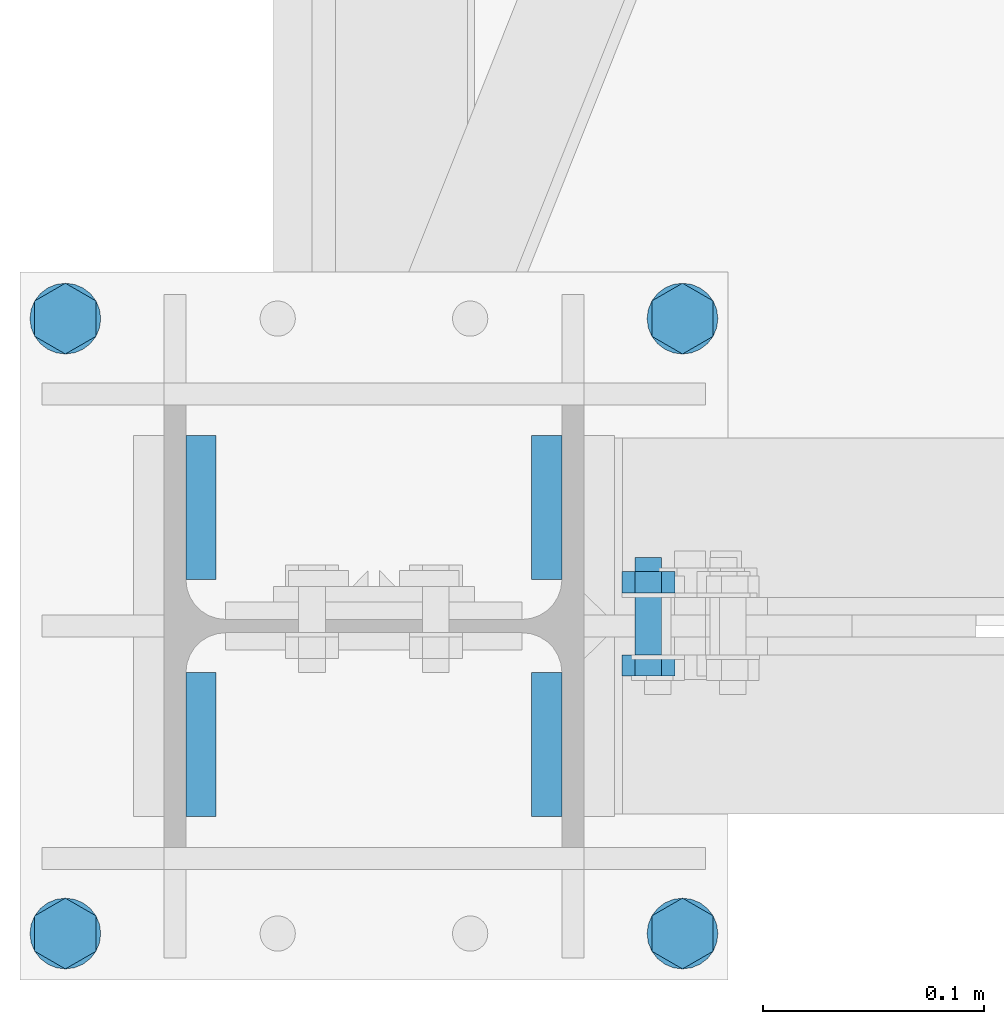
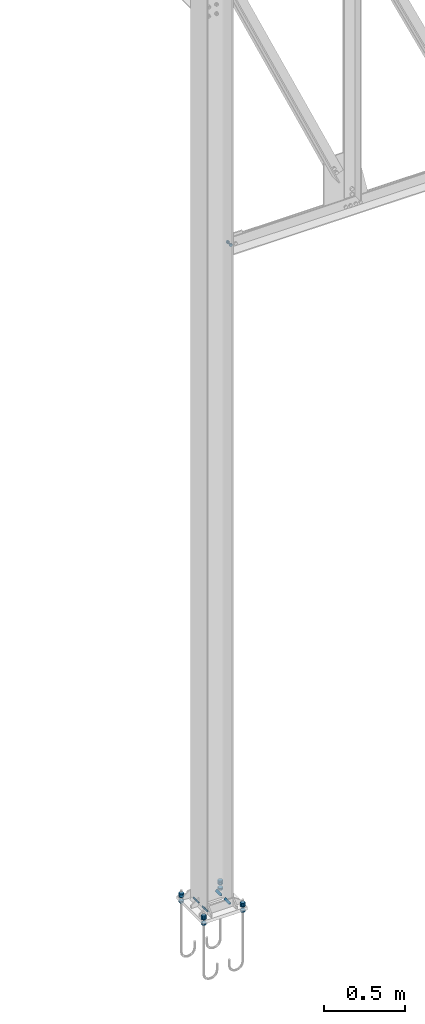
# One storey, part 57 of 251: 23 mechanical fasteners, 8 fasteners.
"""IFC4 building model written with IfcOpenShell, lengths in metres."""

import ifcopenshell
import ifcopenshell.guid

model = None  # the IFC model being written
_history = None  # IfcOwnerHistory: only IFC2X3 demands one
_inside = {}  # id of a spatial element -> (the spatial element, [elements in it])
_under = {}  # id of a project, library or spatial element -> (it, [spatial elements below it])
_declared = {}  # id of a project -> (the project, [libraries it declares])
_typed = {}  # id of a type object -> (the type object, [elements of that type])
_made_of = {}  # id of a material, layer set ... -> (it, [elements and type objects made of it])


def new_model(schema):
    """Start an empty IFC model of exactly this schema.

    Asked for "IFC4X3", IfcOpenShell would pick the latest addendum, in which some entities
    have other attributes; the version numbers below select the first issue.
    IFC2X3 requires an IfcOwnerHistory on every rooted entity: one is made here for all.
    """
    global model, _history
    if schema == "IFC4X3":
        model = ifcopenshell.file(schema_version=(4, 3, 0, 0))
    else:
        model = ifcopenshell.file(schema=schema)
    _inside.clear()
    _under.clear()
    _declared.clear()
    _typed.clear()
    _made_of.clear()
    _history = None
    if model.schema == "IFC2X3":
        org = make("IfcOrganization", Name="unknown")
        user = make(
            "IfcPersonAndOrganization",
            ThePerson=make("IfcPerson", FamilyName="unknown"),
            TheOrganization=org,
        )
        app = make(
            "IfcApplication",
            ApplicationDeveloper=org,
            Version="unknown",
            ApplicationFullName="unknown",
            ApplicationIdentifier="unknown",
        )
        _history = make(
            "IfcOwnerHistory",
            OwningUser=user,
            OwningApplication=app,
            ChangeAction="ADDED",
            CreationDate=0,
        )
    return model


def make(cls, **values):
    """One entity of the class cls with the attributes given. An attribute that is None is left unset."""
    return model.create_entity(
        cls, **{name: value for name, value in values.items() if value is not None}
    )


def rooted(cls, **values):
    """An entity with a GlobalId (a new one), such as an element, a storey or a relation."""
    return make(cls, GlobalId=ifcopenshell.guid.new(), OwnerHistory=_history, **values)


def si_unit(unit_type, name, prefix=None):
    """IfcSIUnit, for example si_unit("LENGTHUNIT", "METRE", prefix="MILLI")."""
    return make("IfcSIUnit", UnitType=unit_type, Prefix=prefix, Name=name)


def assignment(units):
    """IfcUnitAssignment: the units of a project."""
    return None if units is None else make("IfcUnitAssignment", Units=units)


def point(xyz):
    """IfcCartesianPoint."""
    return None if xyz is None else make("IfcCartesianPoint", Coordinates=xyz)


def direction(xyz):
    """IfcDirection."""
    return None if xyz is None else make("IfcDirection", DirectionRatios=xyz)


def frame(location, z_axis=None, x_axis=None):
    """IfcAxis2Placement3D, a coordinate frame: its origin and axes. An axis left out is left unset."""
    return make(
        "IfcAxis2Placement3D",
        Location=point(location),
        Axis=direction(z_axis),
        RefDirection=direction(x_axis),
    )


def origin_with_axes():
    """The frame at (0, 0, 0) with the z axis (0, 0, 1) and the x axis (1, 0, 0) written out."""
    return frame((0.0, 0.0, 0.0), z_axis=(0.0, 0.0, 1.0), x_axis=(1.0, 0.0, 0.0))


def place(relative_to, where):
    """IfcLocalPlacement: puts the frame where relative to a parent placement (None: the world)."""
    return make(
        "IfcLocalPlacement", PlacementRelTo=relative_to, RelativePlacement=where
    )


def context(
    kind, dimensions, precision=None, world=None, true_north=None, identifier=None
):
    """IfcGeometricRepresentationContext, for example the 3D "Model" context."""
    return make(
        "IfcGeometricRepresentationContext",
        ContextIdentifier=identifier,
        ContextType=kind,
        CoordinateSpaceDimension=dimensions,
        Precision=precision,
        WorldCoordinateSystem=world,
        TrueNorth=true_north,
    )


def project(units=None, contexts=None):
    """IfcProject with its units and contexts."""
    return rooted(
        "IfcProject",
        Name="project",
        RepresentationContexts=contexts,
        UnitsInContext=assignment(units),
    )


def spatial(cls, under=None, at=None, **own):
    """A site, building, storey or space (cls), placed at a placement, below another one or the project."""
    s = rooted(cls, ObjectPlacement=at, **own)
    if under is not None:
        _under.setdefault(under.id(), (under, []))[1].append(s)
    return s


def polyline(points):
    """IfcPolyline through the points."""
    return make("IfcPolyline", Points=[point(p) for p in points])


def outline(outer, holes=None, kind="AREA"):
    """IfcArbitraryClosedProfileDef: a profile drawn as a closed curve; with holes, ...WithVoids."""
    if holes is None:
        return make("IfcArbitraryClosedProfileDef", ProfileType=kind, OuterCurve=outer)
    return make(
        "IfcArbitraryProfileDefWithVoids",
        ProfileType=kind,
        OuterCurve=outer,
        InnerCurves=holes,
    )


def extrude(swept, where, along, depth):
    """IfcExtrudedAreaSolid: the profile swept, set in the frame where, extruded along a direction by depth."""
    return make(
        "IfcExtrudedAreaSolid",
        SweptArea=swept,
        Position=where,
        ExtrudedDirection=direction(along),
        Depth=depth,
    )


def shape(context_of_items, identifier, shape_type, items):
    """IfcShapeRepresentation: the items that make up one representation, for example the "Body"."""
    return make(
        "IfcShapeRepresentation",
        ContextOfItems=context_of_items,
        RepresentationIdentifier=identifier,
        RepresentationType=shape_type,
        Items=items,
    )


def made_of(thing, what):
    """Note that an element or type object is made of a material, layer set ...; save() writes the relation."""
    if what is not None:
        _made_of.setdefault(what.id(), (what, []))[1].append(thing)
    return thing


def type_object(cls, material=None, **own):
    """A type object (cls), such as IfcWallType, which elements share."""
    return made_of(rooted(cls, **own), material)


def element(
    cls,
    number,
    at=None,
    inside=None,
    cuts=None,
    type_object=None,
    material=None,
    context=None,
    identifier="Body",
    shape_type=None,
    held_by="IfcProductDefinitionShape",
    body=None,
    shapes=None,
    **own,
):
    """One element of the class cls, such as IfcWall. Its Tag is "e" and its number.

    at: its placement. inside: the storey or other place that contains it. cuts: it is an
    opening in that element (IfcRelVoidsElement). A single representation is given by context,
    identifier, shape_type and body (its items); several are given by shapes. held_by: the class
    of the entity that holds the representations. save() writes the other relations.
    """
    e = rooted(cls, Tag="e%d" % number, ObjectPlacement=at, **own)
    if body is not None:
        shapes = [shape(context, identifier, shape_type, body)]
    if shapes is not None:
        e.Representation = make(held_by, Representations=shapes)
    if inside is not None:
        _inside.setdefault(inside.id(), (inside, []))[1].append(e)
    if cuts is not None:
        rooted(
            "IfcRelVoidsElement", RelatingBuildingElement=cuts, RelatedOpeningElement=e
        )
    if type_object is not None:
        _typed.setdefault(type_object.id(), (type_object, []))[1].append(e)
    return made_of(e, material)


def aggregate(whole, parts):
    """IfcRelAggregates: a whole, such as a stair, and the parts it consists of."""
    return rooted("IfcRelAggregates", RelatingObject=whole, RelatedObjects=parts)


def save(model, path):
    """Write the relations noted so far, then the file.

    IfcRelAggregates (storeys below a building ...), IfcRelContainedInSpatialStructure (elements
    in a storey), IfcRelDefinesByType, IfcRelAssociatesMaterial and IfcRelDeclares: one each for
    every whole, place, type object, material and project.
    """
    for whole, parts in _under.values():
        aggregate(whole, parts)
    for where, things in _inside.values():
        rooted(
            "IfcRelContainedInSpatialStructure",
            RelatedElements=things,
            RelatingStructure=where,
        )
    for kind, things in _typed.values():
        rooted("IfcRelDefinesByType", RelatedObjects=things, RelatingType=kind)
    for what, things in _made_of.values():
        rooted("IfcRelAssociatesMaterial", RelatedObjects=things, RelatingMaterial=what)
    for by, libraries in _declared.values():
        rooted("IfcRelDeclares", RelatingContext=by, RelatedDefinitions=libraries)
    model.write(path)


model = new_model("IFC4")

# Units and contexts
model_context = context("Model", 3, precision=1e-05, world=origin_with_axes())
ifc_project = project(units=[si_unit("LENGTHUNIT", "METRE"), si_unit("AREAUNIT", "SQUARE_METRE"), si_unit("VOLUMEUNIT", "CUBIC_METRE"), si_unit("MASSUNIT", "GRAM", prefix="KILO"), si_unit("TIMEUNIT", "SECOND"), si_unit("PLANEANGLEUNIT", "RADIAN"), si_unit("SOLIDANGLEUNIT", "STERADIAN"), si_unit("THERMODYNAMICTEMPERATUREUNIT", "DEGREE_CELSIUS")], contexts=[model_context])

# Site, building, storey
placement_1 = place(None, origin_with_axes())
site = spatial("IfcSite", under=ifc_project, at=placement_1, Name="Italia", CompositionType="ELEMENT")
building = spatial("IfcBuilding", under=site, at=placement_1, Name="Deposito", CompositionType="ELEMENT")
storey = spatial("IfcBuildingStorey", under=building, at=placement_1, Name="Storey 0", CompositionType="ELEMENT", Elevation=0.0)

# Fasteners
fastener_type_1 = type_object("IfcFastenerType", Name="Collegamenti 0014_-001 0016_-054 0018_-056 0032_-002 0033_-058 0047_-003 0048_-060 0062_-004 0063_-005 0079_-008", PredefinedType="WELD")
placement_2 = place(placement_1, origin_with_axes())
fastener_1_placement = place(placement_2, origin_with_axes())
element("IfcFastener", 1, at=fastener_1_placement, inside=storey, type_object=fastener_type_1, Name="Collegamenti 0014_-001 0016_-054 0018_-056 0032_-002 0033_-058 0047_-003 0048_-060 0062_-004 0063_-005 0079_-008", context=model_context, shape_type="SweptSolid", body=[
    extrude(outline(polyline([(0.0, 0.0), (0.0137482, 0.0141734), (0.0137482, 0.0), (0.0, 0.0)])), frame((5.9787, 0.02095, 0.07495), z_axis=(0.0, 1.0, 0.0), x_axis=(-1.0, 0.0, 0.0)), (0.0, 0.0, 1.0), 0.0651),
])
fastener_type_2 = type_object("IfcFastenerType", Name="Collegamenti 0014_-001 0016_-054 0018_-056 0032_-002 0033_-058 0047_-003 0048_-060 0062_-004 0063_-005 0079_-008", PredefinedType="WELD")
fastener_2_placement = place(placement_2, origin_with_axes())
element("IfcFastener", 2, at=fastener_2_placement, inside=storey, type_object=fastener_type_2, Name="Collegamenti 0014_-001 0016_-054 0018_-056 0032_-002 0033_-058 0047_-003 0048_-060 0062_-004 0063_-005 0079_-008", context=model_context, shape_type="SweptSolid", body=[
    extrude(outline(polyline([(0.0, 0.0), (0.0137482, 0.0141734), (0.0137482, 0.0), (0.0, 0.0)])), frame((6.1213, 0.08605, 0.07495), z_axis=(0.0, -1.0, 0.0), x_axis=(1.0, 0.0, 0.0)), (0.0, 0.0, 1.0), 0.0651),
])
fastener_type_3 = type_object("IfcFastenerType", Name="Collegamenti 0014_-001 0016_-054 0018_-056 0032_-002 0033_-058 0047_-003 0048_-060 0062_-004 0063_-005 0079_-008", PredefinedType="WELD")
fastener_3_placement = place(placement_2, origin_with_axes())
element("IfcFastener", 3, at=fastener_3_placement, inside=storey, type_object=fastener_type_3, Name="Collegamenti 0014_-001 0016_-054 0018_-056 0032_-002 0033_-058 0047_-003 0048_-060 0062_-004 0063_-005 0079_-008", context=model_context, shape_type="SweptSolid", body=[
    extrude(outline(polyline([(0.0, 0.0), (0.0137482, 0.0141734), (0.0137482, 0.0), (0.0, 0.0)])), frame((6.1213, -0.02095, 0.07495), z_axis=(0.0, -1.0, 0.0), x_axis=(1.0, 0.0, 0.0)), (0.0, 0.0, 1.0), 0.0651),
])
fastener_type_4 = type_object("IfcFastenerType", Name="Collegamenti 0014_-001 0016_-054 0018_-056 0032_-002 0033_-058 0047_-003 0048_-060 0062_-004 0063_-005 0079_-008", PredefinedType="WELD")
fastener_4_placement = place(placement_2, origin_with_axes())
element("IfcFastener", 4, at=fastener_4_placement, inside=storey, type_object=fastener_type_4, Name="Collegamenti 0014_-001 0016_-054 0018_-056 0032_-002 0033_-058 0047_-003 0048_-060 0062_-004 0063_-005 0079_-008", context=model_context, shape_type="SweptSolid", body=[
    extrude(outline(polyline([(0.0, 0.0), (0.0137482, 0.0141734), (0.0137482, 0.0), (0.0, 0.0)])), frame((5.9787, -0.08605, 0.07495), z_axis=(0.0, 1.0, 0.0), x_axis=(-1.0, 0.0, 0.0)), (0.0, 0.0, 1.0), 0.0651),
])
fastener_type_5 = type_object("IfcFastenerType", Name="Collegamenti 0014_-001 0016_-054 0018_-056 0032_-002 0033_-058 0047_-003 0048_-060 0062_-004 0063_-005 0079_-008", PredefinedType="WELD")
fastener_5_placement = place(placement_2, origin_with_axes())
element("IfcFastener", 5, at=fastener_5_placement, inside=storey, type_object=fastener_type_5, Name="Collegamenti 0014_-001 0016_-054 0018_-056 0032_-002 0033_-058 0047_-003 0048_-060 0062_-004 0063_-005 0079_-008", context=model_context, shape_type="SweptSolid", body=[
    extrude(outline(polyline([(0.0, 0.0), (0.0137482, 0.0141734), (0.0137482, 0.0), (0.0, 0.0)])), frame((5.9787, 0.02095, 0.07495), z_axis=(0.0, 1.0, 0.0), x_axis=(-1.0, 0.0, 0.0)), (0.0, 0.0, 1.0), 0.0651),
])
fastener_type_6 = type_object("IfcFastenerType", Name="Collegamenti 0014_-001 0016_-054 0018_-056 0032_-002 0033_-058 0047_-003 0048_-060 0062_-004 0063_-005 0079_-008", PredefinedType="WELD")
fastener_6_placement = place(placement_2, origin_with_axes())
element("IfcFastener", 6, at=fastener_6_placement, inside=storey, type_object=fastener_type_6, Name="Collegamenti 0014_-001 0016_-054 0018_-056 0032_-002 0033_-058 0047_-003 0048_-060 0062_-004 0063_-005 0079_-008", context=model_context, shape_type="SweptSolid", body=[
    extrude(outline(polyline([(0.0, 0.0), (0.0137482, 0.0141734), (0.0137482, 0.0), (0.0, 0.0)])), frame((6.1213, 0.08605, 0.07495), z_axis=(0.0, -1.0, 0.0), x_axis=(1.0, 0.0, 0.0)), (0.0, 0.0, 1.0), 0.0651),
])
fastener_type_7 = type_object("IfcFastenerType", Name="Collegamenti 0014_-001 0016_-054 0018_-056 0032_-002 0033_-058 0047_-003 0048_-060 0062_-004 0063_-005 0079_-008", PredefinedType="WELD")
fastener_7_placement = place(placement_2, origin_with_axes())
element("IfcFastener", 7, at=fastener_7_placement, inside=storey, type_object=fastener_type_7, Name="Collegamenti 0014_-001 0016_-054 0018_-056 0032_-002 0033_-058 0047_-003 0048_-060 0062_-004 0063_-005 0079_-008", context=model_context, shape_type="SweptSolid", body=[
    extrude(outline(polyline([(0.0, 0.0), (0.0137482, 0.0141734), (0.0137482, 0.0), (0.0, 0.0)])), frame((6.1213, -0.02095, 0.07495), z_axis=(0.0, -1.0, 0.0), x_axis=(1.0, 0.0, 0.0)), (0.0, 0.0, 1.0), 0.0651),
])
fastener_type_8 = type_object("IfcFastenerType", Name="Collegamenti 0014_-001 0016_-054 0018_-056 0032_-002 0033_-058 0047_-003 0048_-060 0062_-004 0063_-005 0079_-008", PredefinedType="WELD")
fastener_8_placement = place(placement_2, origin_with_axes())
element("IfcFastener", 8, at=fastener_8_placement, inside=storey, type_object=fastener_type_8, Name="Collegamenti 0014_-001 0016_-054 0018_-056 0032_-002 0033_-058 0047_-003 0048_-060 0062_-004 0063_-005 0079_-008", context=model_context, shape_type="SweptSolid", body=[
    extrude(outline(polyline([(0.0, 0.0), (0.0137482, 0.0141734), (0.0137482, 0.0), (0.0, 0.0)])), frame((5.9787, -0.08605, 0.07495), z_axis=(0.0, 1.0, 0.0), x_axis=(-1.0, 0.0, 0.0)), (0.0, 0.0, 1.0), 0.0651),
])

# Mechanical fasteners
mechanical_fastener_type_1 = type_object("IfcMechanicalFastenerType", Name="Collegamenti 0014_-001 0016_-054 0018_-056 0032_-002 0033_-058 0047_-003 0048_-060 0062_-004 0063_-005 0079_-008", PredefinedType="BOLT")
mechanical_fastener_1_placement = place(placement_2, origin_with_axes())
element("IfcMechanicalFastener", 9, at=mechanical_fastener_1_placement, inside=storey, type_object=mechanical_fastener_type_1, Name="Collegamenti 0014_-001 0016_-054 0018_-056 0032_-002 0033_-058 0047_-003 0048_-060 0062_-004 0063_-005 0079_-008", NominalDiameter=0.016, context=model_context, shape_type="SweptSolid", body=[
    extrude(outline(polyline([(0.0, 0.0), (-0.016, 0.0), (-0.024, 0.0138569), (-0.016, 0.0277138), (0.0, 0.0277138), (0.008, 0.0138569), (0.0, 0.0)])), frame((6.20336, -0.131, 0.079), z_axis=(0.0, 0.0, 1.0), x_axis=(0.0, 1.0, 0.0)), (0.0, 0.0, 1.0), 0.0128),
])
mechanical_fastener_type_2 = type_object("IfcMechanicalFastenerType", Name="Collegamenti 0014_-001 0016_-054 0018_-056 0032_-002 0033_-058 0047_-003 0048_-060 0062_-004 0063_-005 0079_-008", PredefinedType="BOLT")
mechanical_fastener_2_placement = place(placement_2, origin_with_axes())
element("IfcMechanicalFastener", 10, at=mechanical_fastener_2_placement, inside=storey, type_object=mechanical_fastener_type_2, Name="Collegamenti 0014_-001 0016_-054 0018_-056 0032_-002 0033_-058 0047_-003 0048_-060 0062_-004 0063_-005 0079_-008", NominalDiameter=0.016, context=model_context, shape_type="SweptSolid", body=[
    extrude(outline(polyline([(0.0, 0.0), (-0.016, 0.0), (-0.024, 0.0138569), (-0.016, 0.0277138), (0.0, 0.0277138), (0.008, 0.0138569), (0.0, 0.0)])), frame((6.20336, -0.131, 0.0918), z_axis=(0.0, 0.0, 1.0), x_axis=(0.0, 1.0, 0.0)), (0.0, 0.0, 1.0), 0.0128),
])
mechanical_fastener_type_3 = type_object("IfcMechanicalFastenerType", Name="Collegamenti 0014_-001 0016_-054 0018_-056 0032_-002 0033_-058 0047_-003 0048_-060 0062_-004 0063_-005 0079_-008", PredefinedType="BOLT")
mechanical_fastener_3_placement = place(placement_2, origin_with_axes())
element("IfcMechanicalFastener", 11, at=mechanical_fastener_3_placement, inside=storey, type_object=mechanical_fastener_type_3, Name="Collegamenti 0014_-001 0016_-054 0018_-056 0032_-002 0033_-058 0047_-003 0048_-060 0062_-004 0063_-005 0079_-008", NominalDiameter=0.016, context=model_context, shape_type="SweptSolid", body=[
    extrude(outline(polyline([(0.0, 0.0), (-0.016, 0.0), (-0.024, 0.0138569), (-0.016, 0.0277138), (0.0, 0.0277138), (0.008, 0.0138569), (0.0, 0.0)])), frame((6.20336, -0.131, 0.0332), z_axis=(0.0, 0.0, 1.0), x_axis=(0.0, 1.0, 0.0)), (0.0, 0.0, 1.0), 0.0128),
])
mechanical_fastener_type_4 = type_object("IfcMechanicalFastenerType", Name="Collegamenti 0014_-001 0016_-054 0018_-056 0032_-002 0033_-058 0047_-003 0048_-060 0062_-004 0063_-005 0079_-008", PredefinedType="BOLT")
mechanical_fastener_4_placement = place(placement_2, origin_with_axes())
element("IfcMechanicalFastener", 12, at=mechanical_fastener_4_placement, inside=storey, type_object=mechanical_fastener_type_4, Name="Collegamenti 0014_-001 0016_-054 0018_-056 0032_-002 0033_-058 0047_-003 0048_-060 0062_-004 0063_-005 0079_-008", NominalDiameter=0.032, context=model_context, shape_type="SweptSolid", body=[
    extrude(outline(polyline([(0.0, 0.0), (-0.000545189, -0.00414133), (-0.00214359, -0.0079999), (-0.0046863, -0.0113139), (-0.008, -0.0138564), (-0.0118589, -0.0154548), (-0.016, -0.0159998), (-0.0201411, -0.0154548), (-0.024, -0.0138564), (-0.0273137, -0.0113139), (-0.0298564, -0.0079999), (-0.0314548, -0.00414133), (-0.032, 0.0), (-0.0314548, 0.00414133), (-0.0298564, 0.0079999), (-0.0273137, 0.0113139), (-0.024, 0.0138564), (-0.0201411, 0.0154548), (-0.016, 0.0159998), (-0.0118589, 0.0154548), (-0.008, 0.0138564), (-0.0046863, 0.0113139), (-0.00214359, 0.0079999), (-0.000545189, 0.00414133), (0.0, 0.0)])), frame((6.1895, -0.123, 0.075), z_axis=(0.0, 0.0, 1.0), x_axis=(0.0, 1.0, 0.0)), (0.0, 0.0, 1.0), 0.00399999),
])
mechanical_fastener_type_5 = type_object("IfcMechanicalFastenerType", Name="Collegamenti 0014_-001 0016_-054 0018_-056 0032_-002 0033_-058 0047_-003 0048_-060 0062_-004 0063_-005 0079_-008", PredefinedType="BOLT")
mechanical_fastener_5_placement = place(placement_2, origin_with_axes())
element("IfcMechanicalFastener", 13, at=mechanical_fastener_5_placement, inside=storey, type_object=mechanical_fastener_type_5, Name="Collegamenti 0014_-001 0016_-054 0018_-056 0032_-002 0033_-058 0047_-003 0048_-060 0062_-004 0063_-005 0079_-008", NominalDiameter=0.032, context=model_context, shape_type="SweptSolid", body=[
    extrude(outline(polyline([(0.0, 0.0), (-0.000545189, -0.00414133), (-0.00214359, -0.0079999), (-0.0046863, -0.0113139), (-0.008, -0.0138564), (-0.0118589, -0.0154548), (-0.016, -0.0159998), (-0.0201411, -0.0154548), (-0.024, -0.0138564), (-0.0273137, -0.0113139), (-0.0298564, -0.0079999), (-0.0314548, -0.00414133), (-0.032, 0.0), (-0.0314548, 0.00414133), (-0.0298564, 0.0079999), (-0.0273137, 0.0113139), (-0.024, 0.0138564), (-0.0201411, 0.0154548), (-0.016, 0.0159998), (-0.0118589, 0.0154548), (-0.008, 0.0138564), (-0.0046863, 0.0113139), (-0.00214359, 0.0079999), (-0.000545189, 0.00414133), (0.0, 0.0)])), frame((6.1895, -0.123, 0.046), z_axis=(0.0, 0.0, 1.0), x_axis=(0.0, 1.0, 0.0)), (0.0, 0.0, 1.0), 0.004),
])
mechanical_fastener_type_6 = type_object("IfcMechanicalFastenerType", Name="Collegamenti 0014_-001 0016_-054 0018_-056 0032_-002 0033_-058 0047_-003 0048_-060 0062_-004 0063_-005 0079_-008", PredefinedType="BOLT")
mechanical_fastener_6_placement = place(placement_2, origin_with_axes())
element("IfcMechanicalFastener", 14, at=mechanical_fastener_6_placement, inside=storey, type_object=mechanical_fastener_type_6, Name="Collegamenti 0014_-001 0016_-054 0018_-056 0032_-002 0033_-058 0047_-003 0048_-060 0062_-004 0063_-005 0079_-008", NominalDiameter=0.016, context=model_context, shape_type="SweptSolid", body=[
    extrude(outline(polyline([(0.0, 0.0), (-0.016, 0.0), (-0.024, 0.0138569), (-0.016, 0.0277138), (0.0, 0.0277138), (0.008, 0.0138569), (0.0, 0.0)])), frame((6.20336, 0.147, 0.079), z_axis=(0.0, 0.0, 1.0), x_axis=(0.0, 1.0, 0.0)), (0.0, 0.0, 1.0), 0.0128),
])
mechanical_fastener_type_7 = type_object("IfcMechanicalFastenerType", Name="Collegamenti 0014_-001 0016_-054 0018_-056 0032_-002 0033_-058 0047_-003 0048_-060 0062_-004 0063_-005 0079_-008", PredefinedType="BOLT")
mechanical_fastener_7_placement = place(placement_2, origin_with_axes())
element("IfcMechanicalFastener", 15, at=mechanical_fastener_7_placement, inside=storey, type_object=mechanical_fastener_type_7, Name="Collegamenti 0014_-001 0016_-054 0018_-056 0032_-002 0033_-058 0047_-003 0048_-060 0062_-004 0063_-005 0079_-008", NominalDiameter=0.016, context=model_context, shape_type="SweptSolid", body=[
    extrude(outline(polyline([(0.0, 0.0), (-0.016, 0.0), (-0.024, 0.0138569), (-0.016, 0.0277138), (0.0, 0.0277138), (0.008, 0.0138569), (0.0, 0.0)])), frame((6.20336, 0.147, 0.0918), z_axis=(0.0, 0.0, 1.0), x_axis=(0.0, 1.0, 0.0)), (0.0, 0.0, 1.0), 0.0128),
])
mechanical_fastener_type_8 = type_object("IfcMechanicalFastenerType", Name="Collegamenti 0014_-001 0016_-054 0018_-056 0032_-002 0033_-058 0047_-003 0048_-060 0062_-004 0063_-005 0079_-008", PredefinedType="BOLT")
mechanical_fastener_8_placement = place(placement_2, origin_with_axes())
element("IfcMechanicalFastener", 16, at=mechanical_fastener_8_placement, inside=storey, type_object=mechanical_fastener_type_8, Name="Collegamenti 0014_-001 0016_-054 0018_-056 0032_-002 0033_-058 0047_-003 0048_-060 0062_-004 0063_-005 0079_-008", NominalDiameter=0.016, context=model_context, shape_type="SweptSolid", body=[
    extrude(outline(polyline([(0.0, 0.0), (-0.016, 0.0), (-0.024, 0.0138569), (-0.016, 0.0277138), (0.0, 0.0277138), (0.008, 0.0138569), (0.0, 0.0)])), frame((6.20336, 0.147, 0.0332), z_axis=(0.0, 0.0, 1.0), x_axis=(0.0, 1.0, 0.0)), (0.0, 0.0, 1.0), 0.0128),
])
mechanical_fastener_type_9 = type_object("IfcMechanicalFastenerType", Name="Collegamenti 0014_-001 0016_-054 0018_-056 0032_-002 0033_-058 0047_-003 0048_-060 0062_-004 0063_-005 0079_-008", PredefinedType="BOLT")
mechanical_fastener_9_placement = place(placement_2, origin_with_axes())
element("IfcMechanicalFastener", 17, at=mechanical_fastener_9_placement, inside=storey, type_object=mechanical_fastener_type_9, Name="Collegamenti 0014_-001 0016_-054 0018_-056 0032_-002 0033_-058 0047_-003 0048_-060 0062_-004 0063_-005 0079_-008", NominalDiameter=0.032, context=model_context, shape_type="SweptSolid", body=[
    extrude(outline(polyline([(0.0, 0.0), (-0.000545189, -0.00414133), (-0.00214359, -0.0079999), (-0.0046863, -0.0113139), (-0.008, -0.0138564), (-0.0118589, -0.0154548), (-0.016, -0.0159998), (-0.0201411, -0.0154548), (-0.024, -0.0138564), (-0.0273137, -0.0113139), (-0.0298564, -0.0079999), (-0.0314548, -0.00414133), (-0.032, 0.0), (-0.0314548, 0.00414133), (-0.0298564, 0.0079999), (-0.0273137, 0.0113139), (-0.024, 0.0138564), (-0.0201411, 0.0154548), (-0.016, 0.0159998), (-0.0118589, 0.0154548), (-0.008, 0.0138564), (-0.0046863, 0.0113139), (-0.00214359, 0.0079999), (-0.000545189, 0.00414133), (0.0, 0.0)])), frame((6.1895, 0.155, 0.075), z_axis=(0.0, 0.0, 1.0), x_axis=(0.0, 1.0, 0.0)), (0.0, 0.0, 1.0), 0.00399999),
])
mechanical_fastener_type_10 = type_object("IfcMechanicalFastenerType", Name="Collegamenti 0014_-001 0016_-054 0018_-056 0032_-002 0033_-058 0047_-003 0048_-060 0062_-004 0063_-005 0079_-008", PredefinedType="BOLT")
mechanical_fastener_10_placement = place(placement_2, origin_with_axes())
element("IfcMechanicalFastener", 18, at=mechanical_fastener_10_placement, inside=storey, type_object=mechanical_fastener_type_10, Name="Collegamenti 0014_-001 0016_-054 0018_-056 0032_-002 0033_-058 0047_-003 0048_-060 0062_-004 0063_-005 0079_-008", NominalDiameter=0.032, context=model_context, shape_type="SweptSolid", body=[
    extrude(outline(polyline([(0.0, 0.0), (-0.000545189, -0.00414133), (-0.00214359, -0.0079999), (-0.0046863, -0.0113139), (-0.008, -0.0138564), (-0.0118589, -0.0154548), (-0.016, -0.0159998), (-0.0201411, -0.0154548), (-0.024, -0.0138564), (-0.0273137, -0.0113139), (-0.0298564, -0.0079999), (-0.0314548, -0.00414133), (-0.032, 0.0), (-0.0314548, 0.00414133), (-0.0298564, 0.0079999), (-0.0273137, 0.0113139), (-0.024, 0.0138564), (-0.0201411, 0.0154548), (-0.016, 0.0159998), (-0.0118589, 0.0154548), (-0.008, 0.0138564), (-0.0046863, 0.0113139), (-0.00214359, 0.0079999), (-0.000545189, 0.00414133), (0.0, 0.0)])), frame((6.1895, 0.155, 0.046), z_axis=(0.0, 0.0, 1.0), x_axis=(0.0, 1.0, 0.0)), (0.0, 0.0, 1.0), 0.004),
])
mechanical_fastener_type_11 = type_object("IfcMechanicalFastenerType", Name="Collegamenti 0014_-001 0016_-054 0018_-056 0032_-002 0033_-058 0047_-003 0048_-060 0062_-004 0063_-005 0079_-008", PredefinedType="BOLT")
mechanical_fastener_11_placement = place(placement_2, origin_with_axes())
element("IfcMechanicalFastener", 19, at=mechanical_fastener_11_placement, inside=storey, type_object=mechanical_fastener_type_11, Name="Collegamenti 0014_-001 0016_-054 0018_-056 0032_-002 0033_-058 0047_-003 0048_-060 0062_-004 0063_-005 0079_-008", NominalDiameter=0.016, context=model_context, shape_type="SweptSolid", body=[
    extrude(outline(polyline([(0.0, 0.0), (-0.016, 0.0), (-0.024, 0.0138569), (-0.016, 0.0277138), (0.0, 0.0277138), (0.008, 0.0138569), (0.0, 0.0)])), frame((5.92436, -0.131, 0.079), z_axis=(0.0, 0.0, 1.0), x_axis=(0.0, 1.0, 0.0)), (0.0, 0.0, 1.0), 0.0128),
])
mechanical_fastener_type_12 = type_object("IfcMechanicalFastenerType", Name="Collegamenti 0014_-001 0016_-054 0018_-056 0032_-002 0033_-058 0047_-003 0048_-060 0062_-004 0063_-005 0079_-008", PredefinedType="BOLT")
mechanical_fastener_12_placement = place(placement_2, origin_with_axes())
element("IfcMechanicalFastener", 20, at=mechanical_fastener_12_placement, inside=storey, type_object=mechanical_fastener_type_12, Name="Collegamenti 0014_-001 0016_-054 0018_-056 0032_-002 0033_-058 0047_-003 0048_-060 0062_-004 0063_-005 0079_-008", NominalDiameter=0.016, context=model_context, shape_type="SweptSolid", body=[
    extrude(outline(polyline([(0.0, 0.0), (-0.016, 0.0), (-0.024, 0.0138569), (-0.016, 0.0277138), (0.0, 0.0277138), (0.008, 0.0138569), (0.0, 0.0)])), frame((5.92436, -0.131, 0.0918), z_axis=(0.0, 0.0, 1.0), x_axis=(0.0, 1.0, 0.0)), (0.0, 0.0, 1.0), 0.0128),
])
mechanical_fastener_type_13 = type_object("IfcMechanicalFastenerType", Name="Collegamenti 0014_-001 0016_-054 0018_-056 0032_-002 0033_-058 0047_-003 0048_-060 0062_-004 0063_-005 0079_-008", PredefinedType="BOLT")
mechanical_fastener_13_placement = place(placement_2, origin_with_axes())
element("IfcMechanicalFastener", 21, at=mechanical_fastener_13_placement, inside=storey, type_object=mechanical_fastener_type_13, Name="Collegamenti 0014_-001 0016_-054 0018_-056 0032_-002 0033_-058 0047_-003 0048_-060 0062_-004 0063_-005 0079_-008", NominalDiameter=0.016, context=model_context, shape_type="SweptSolid", body=[
    extrude(outline(polyline([(0.0, 0.0), (-0.016, 0.0), (-0.024, 0.0138569), (-0.016, 0.0277138), (0.0, 0.0277138), (0.008, 0.0138569), (0.0, 0.0)])), frame((5.92436, -0.131, 0.0332), z_axis=(0.0, 0.0, 1.0), x_axis=(0.0, 1.0, 0.0)), (0.0, 0.0, 1.0), 0.0128),
])
mechanical_fastener_type_14 = type_object("IfcMechanicalFastenerType", Name="Collegamenti 0014_-001 0016_-054 0018_-056 0032_-002 0033_-058 0047_-003 0048_-060 0062_-004 0063_-005 0079_-008", PredefinedType="BOLT")
mechanical_fastener_14_placement = place(placement_2, origin_with_axes())
element("IfcMechanicalFastener", 22, at=mechanical_fastener_14_placement, inside=storey, type_object=mechanical_fastener_type_14, Name="Collegamenti 0014_-001 0016_-054 0018_-056 0032_-002 0033_-058 0047_-003 0048_-060 0062_-004 0063_-005 0079_-008", NominalDiameter=0.032, context=model_context, shape_type="SweptSolid", body=[
    extrude(outline(polyline([(0.0, 0.0), (-0.000545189, -0.00414133), (-0.00214359, -0.0079999), (-0.0046863, -0.0113139), (-0.008, -0.0138564), (-0.0118589, -0.0154548), (-0.016, -0.0159998), (-0.0201411, -0.0154548), (-0.024, -0.0138564), (-0.0273137, -0.0113139), (-0.0298564, -0.0079999), (-0.0314548, -0.00414133), (-0.032, 0.0), (-0.0314548, 0.00414133), (-0.0298564, 0.0079999), (-0.0273137, 0.0113139), (-0.024, 0.0138564), (-0.0201411, 0.0154548), (-0.016, 0.0159998), (-0.0118589, 0.0154548), (-0.008, 0.0138564), (-0.0046863, 0.0113139), (-0.00214359, 0.0079999), (-0.000545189, 0.00414133), (0.0, 0.0)])), frame((5.9105, -0.123, 0.075), z_axis=(0.0, 0.0, 1.0), x_axis=(0.0, 1.0, 0.0)), (0.0, 0.0, 1.0), 0.00399999),
])
mechanical_fastener_type_15 = type_object("IfcMechanicalFastenerType", Name="Collegamenti 0014_-001 0016_-054 0018_-056 0032_-002 0033_-058 0047_-003 0048_-060 0062_-004 0063_-005 0079_-008", PredefinedType="BOLT")
mechanical_fastener_15_placement = place(placement_2, origin_with_axes())
element("IfcMechanicalFastener", 23, at=mechanical_fastener_15_placement, inside=storey, type_object=mechanical_fastener_type_15, Name="Collegamenti 0014_-001 0016_-054 0018_-056 0032_-002 0033_-058 0047_-003 0048_-060 0062_-004 0063_-005 0079_-008", NominalDiameter=0.032, context=model_context, shape_type="SweptSolid", body=[
    extrude(outline(polyline([(0.0, 0.0), (-0.000545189, -0.00414133), (-0.00214359, -0.0079999), (-0.0046863, -0.0113139), (-0.008, -0.0138564), (-0.0118589, -0.0154548), (-0.016, -0.0159998), (-0.0201411, -0.0154548), (-0.024, -0.0138564), (-0.0273137, -0.0113139), (-0.0298564, -0.0079999), (-0.0314548, -0.00414133), (-0.032, 0.0), (-0.0314548, 0.00414133), (-0.0298564, 0.0079999), (-0.0273137, 0.0113139), (-0.024, 0.0138564), (-0.0201411, 0.0154548), (-0.016, 0.0159998), (-0.0118589, 0.0154548), (-0.008, 0.0138564), (-0.0046863, 0.0113139), (-0.00214359, 0.0079999), (-0.000545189, 0.00414133), (0.0, 0.0)])), frame((5.9105, -0.123, 0.046), z_axis=(0.0, 0.0, 1.0), x_axis=(0.0, 1.0, 0.0)), (0.0, 0.0, 1.0), 0.004),
])
mechanical_fastener_type_16 = type_object("IfcMechanicalFastenerType", Name="Collegamenti 0014_-001 0016_-054 0018_-056 0032_-002 0033_-058 0047_-003 0048_-060 0062_-004 0063_-005 0079_-008", PredefinedType="BOLT")
mechanical_fastener_16_placement = place(placement_2, origin_with_axes())
element("IfcMechanicalFastener", 24, at=mechanical_fastener_16_placement, inside=storey, type_object=mechanical_fastener_type_16, Name="Collegamenti 0014_-001 0016_-054 0018_-056 0032_-002 0033_-058 0047_-003 0048_-060 0062_-004 0063_-005 0079_-008", NominalDiameter=0.016, context=model_context, shape_type="SweptSolid", body=[
    extrude(outline(polyline([(0.0, 0.0), (-0.016, 0.0), (-0.024, 0.0138569), (-0.016, 0.0277138), (0.0, 0.0277138), (0.008, 0.0138569), (0.0, 0.0)])), frame((5.92436, 0.147, 0.079), z_axis=(0.0, 0.0, 1.0), x_axis=(0.0, 1.0, 0.0)), (0.0, 0.0, 1.0), 0.0128),
])
mechanical_fastener_type_17 = type_object("IfcMechanicalFastenerType", Name="Collegamenti 0014_-001 0016_-054 0018_-056 0032_-002 0033_-058 0047_-003 0048_-060 0062_-004 0063_-005 0079_-008", PredefinedType="BOLT")
mechanical_fastener_17_placement = place(placement_2, origin_with_axes())
element("IfcMechanicalFastener", 25, at=mechanical_fastener_17_placement, inside=storey, type_object=mechanical_fastener_type_17, Name="Collegamenti 0014_-001 0016_-054 0018_-056 0032_-002 0033_-058 0047_-003 0048_-060 0062_-004 0063_-005 0079_-008", NominalDiameter=0.016, context=model_context, shape_type="SweptSolid", body=[
    extrude(outline(polyline([(0.0, 0.0), (-0.016, 0.0), (-0.024, 0.0138569), (-0.016, 0.0277138), (0.0, 0.0277138), (0.008, 0.0138569), (0.0, 0.0)])), frame((5.92436, 0.147, 0.0918), z_axis=(0.0, 0.0, 1.0), x_axis=(0.0, 1.0, 0.0)), (0.0, 0.0, 1.0), 0.0128),
])
mechanical_fastener_type_18 = type_object("IfcMechanicalFastenerType", Name="Collegamenti 0014_-001 0016_-054 0018_-056 0032_-002 0033_-058 0047_-003 0048_-060 0062_-004 0063_-005 0079_-008", PredefinedType="BOLT")
mechanical_fastener_18_placement = place(placement_2, origin_with_axes())
element("IfcMechanicalFastener", 26, at=mechanical_fastener_18_placement, inside=storey, type_object=mechanical_fastener_type_18, Name="Collegamenti 0014_-001 0016_-054 0018_-056 0032_-002 0033_-058 0047_-003 0048_-060 0062_-004 0063_-005 0079_-008", NominalDiameter=0.016, context=model_context, shape_type="SweptSolid", body=[
    extrude(outline(polyline([(0.0, 0.0), (-0.016, 0.0), (-0.024, 0.0138569), (-0.016, 0.0277138), (0.0, 0.0277138), (0.008, 0.0138569), (0.0, 0.0)])), frame((5.92436, 0.147, 0.0332), z_axis=(0.0, 0.0, 1.0), x_axis=(0.0, 1.0, 0.0)), (0.0, 0.0, 1.0), 0.0128),
])
mechanical_fastener_type_19 = type_object("IfcMechanicalFastenerType", Name="Collegamenti 0014_-001 0016_-054 0018_-056 0032_-002 0033_-058 0047_-003 0048_-060 0062_-004 0063_-005 0079_-008", PredefinedType="BOLT")
mechanical_fastener_19_placement = place(placement_2, origin_with_axes())
element("IfcMechanicalFastener", 27, at=mechanical_fastener_19_placement, inside=storey, type_object=mechanical_fastener_type_19, Name="Collegamenti 0014_-001 0016_-054 0018_-056 0032_-002 0033_-058 0047_-003 0048_-060 0062_-004 0063_-005 0079_-008", NominalDiameter=0.032, context=model_context, shape_type="SweptSolid", body=[
    extrude(outline(polyline([(0.0, 0.0), (-0.000545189, -0.00414133), (-0.00214359, -0.0079999), (-0.0046863, -0.0113139), (-0.008, -0.0138564), (-0.0118589, -0.0154548), (-0.016, -0.0159998), (-0.0201411, -0.0154548), (-0.024, -0.0138564), (-0.0273137, -0.0113139), (-0.0298564, -0.0079999), (-0.0314548, -0.00414133), (-0.032, 0.0), (-0.0314548, 0.00414133), (-0.0298564, 0.0079999), (-0.0273137, 0.0113139), (-0.024, 0.0138564), (-0.0201411, 0.0154548), (-0.016, 0.0159998), (-0.0118589, 0.0154548), (-0.008, 0.0138564), (-0.0046863, 0.0113139), (-0.00214359, 0.0079999), (-0.000545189, 0.00414133), (0.0, 0.0)])), frame((5.9105, 0.155, 0.075), z_axis=(0.0, 0.0, 1.0), x_axis=(0.0, 1.0, 0.0)), (0.0, 0.0, 1.0), 0.00399999),
])
mechanical_fastener_type_20 = type_object("IfcMechanicalFastenerType", Name="Collegamenti 0014_-001 0016_-054 0018_-056 0032_-002 0033_-058 0047_-003 0048_-060 0062_-004 0063_-005 0079_-008", PredefinedType="BOLT")
mechanical_fastener_20_placement = place(placement_2, origin_with_axes())
element("IfcMechanicalFastener", 28, at=mechanical_fastener_20_placement, inside=storey, type_object=mechanical_fastener_type_20, Name="Collegamenti 0014_-001 0016_-054 0018_-056 0032_-002 0033_-058 0047_-003 0048_-060 0062_-004 0063_-005 0079_-008", NominalDiameter=0.032, context=model_context, shape_type="SweptSolid", body=[
    extrude(outline(polyline([(0.0, 0.0), (-0.000545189, -0.00414133), (-0.00214359, -0.0079999), (-0.0046863, -0.0113139), (-0.008, -0.0138564), (-0.0118589, -0.0154548), (-0.016, -0.0159998), (-0.0201411, -0.0154548), (-0.024, -0.0138564), (-0.0273137, -0.0113139), (-0.0298564, -0.0079999), (-0.0314548, -0.00414133), (-0.032, 0.0), (-0.0314548, 0.00414133), (-0.0298564, 0.0079999), (-0.0273137, 0.0113139), (-0.024, 0.0138564), (-0.0201411, 0.0154548), (-0.016, 0.0159998), (-0.0118589, 0.0154548), (-0.008, 0.0138564), (-0.0046863, 0.0113139), (-0.00214359, 0.0079999), (-0.000545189, 0.00414133), (0.0, 0.0)])), frame((5.9105, 0.155, 0.046), z_axis=(0.0, 0.0, 1.0), x_axis=(0.0, 1.0, 0.0)), (0.0, 0.0, 1.0), 0.004),
])
mechanical_fastener_type_21 = type_object("IfcMechanicalFastenerType", Name="Reticolare 2", PredefinedType="BOLT")
mechanical_fastener_21_placement = place(placement_2, origin_with_axes())
element("IfcMechanicalFastener", 29, at=mechanical_fastener_21_placement, inside=storey, type_object=mechanical_fastener_type_21, Name="Reticolare 2", NominalDiameter=0.0119999, context=model_context, shape_type="SweptSolid", body=[
    extrude(outline(polyline([(0.0, 0.0), (-0.0120001, 0.0), (-0.0180001, 0.0103922), (-0.0120001, 0.0207844), (0.0, 0.0207844), (0.00600004, 0.0103922), (0.0, 0.0)])), frame((6.18005, -0.013, 4.99661), z_axis=(0.0, -1.0, 0.0), x_axis=(1.0, 0.0, 0.0)), (0.0, 0.0, 1.0), 0.0096),
])
mechanical_fastener_type_22 = type_object("IfcMechanicalFastenerType", Name="Reticolare 2", PredefinedType="BOLT")
mechanical_fastener_22_placement = place(placement_2, origin_with_axes())
element("IfcMechanicalFastener", 30, at=mechanical_fastener_22_placement, inside=storey, type_object=mechanical_fastener_type_22, Name="Reticolare 2", NominalDiameter=0.012, context=model_context, shape_type="SweptSolid", body=[
    extrude(outline(polyline([(0.0, 0.0), (-0.000204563, -0.00155306), (-0.000803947, -0.00299978), (-0.00175762, -0.00424242), (-0.00300026, -0.00519609), (-0.00444698, -0.00579548), (-0.00600004, -0.00600004), (-0.0075531, -0.00579548), (-0.00899982, -0.00519609), (-0.0102425, -0.00424242), (-0.0111961, -0.00299978), (-0.0117955, -0.00155306), (-0.0120001, 0.0), (-0.0117955, 0.00155306), (-0.0111961, 0.00299978), (-0.0102425, 0.00424242), (-0.00899982, 0.00519609), (-0.0075531, 0.00579548), (-0.00600004, 0.00600004), (-0.00444698, 0.00579548), (-0.00300026, 0.00519609), (-0.00175762, 0.00424242), (-0.000803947, 0.00299978), (-0.000204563, 0.00155306), (0.0, 0.0)])), frame((6.18005, 0.031, 5.007), z_axis=(0.0, -1.0, 0.0), x_axis=(1.0, 0.0, 0.0)), (0.0, 0.0, 1.0), 0.044),
])
mechanical_fastener_type_23 = type_object("IfcMechanicalFastenerType", Name="Reticolare 2", PredefinedType="BOLT")
mechanical_fastener_23_placement = place(placement_2, origin_with_axes())
element("IfcMechanicalFastener", 31, at=mechanical_fastener_23_placement, inside=storey, type_object=mechanical_fastener_type_23, Name="Reticolare 2", NominalDiameter=0.0119999, context=model_context, shape_type="SweptSolid", body=[
    extrude(outline(polyline([(0.0, 0.0), (-0.0120001, 0.0), (-0.0180001, 0.0103922), (-0.0120001, 0.0207844), (0.0, 0.0207844), (0.00600004, 0.0103922), (0.0, 0.0)])), frame((6.18005, 0.0246, 4.99661), z_axis=(0.0, -1.0, 0.0), x_axis=(1.0, 0.0, 0.0)), (0.0, 0.0, 1.0), 0.0096),
])

save(model, "model.ifc")
